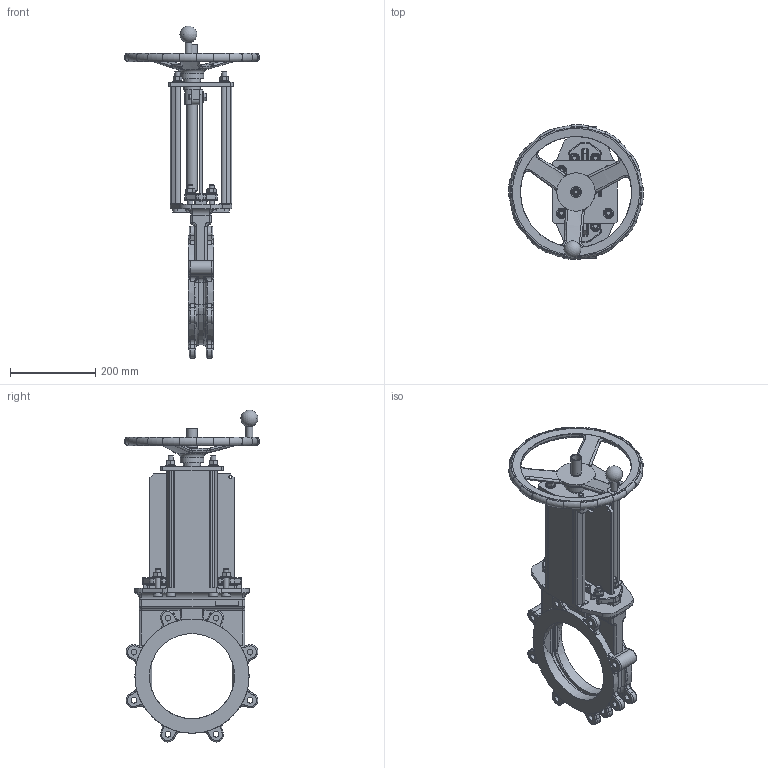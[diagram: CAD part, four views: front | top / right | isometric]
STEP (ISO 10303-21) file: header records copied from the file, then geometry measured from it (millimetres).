
FILE_DESCRIPTION(/* description */ (''),/* implementation_level */ '2;1');
FILE_NAME(/* name */ 'G:\KONSTRUK\3-D Block för kund\WB SERIE\WB14-E\HAND WHEEL\200\WB14E-DN200-PN10-HW.stp',/* time_stamp */ '2022-07-27T11:53:44+02:00',/* author */ ('davkar'),/* organization */ (''),/* preprocessor_version */ 'ST-DEVELOPER v18.1',/* originating_system */ 'Autodesk Inventor 2020',/* authorisation */ '');
FILE_SCHEMA (('AUTOMOTIVE_DESIGN { 1 0 10303 214 3 1 1 }'));
Length unit declared in the file: millimetre
Products named in the file (1): WB14E-DN200-PN10-HW_Shrinkwrap_1
Bounding box: 316.79 x 316.79 x 779.5 mm (x, y, z)
Volume: 4939577.2 mm3; surface area: 997961.7 mm2
Topology: 1 solids, 1 shells, 1495 faces, 3852 edges, 2406 vertices
Faces by surface type: plane 566, cylinder 450, torus 205, bspline 187, cone 58, sphere 29
Full cylindrical faces by diameter (mm): 7 x1, 8.376 x1, 10.106 x4, 12 x23, 13 x8, 13.835 x16, 15 x1, 15.5 x1, 16 x1, 16.63 x2, 20 x2, 21 x1, 24 x12, 25 x1, 40 x2, 55 x1, 200 x2, 268 x2, 298 x1
Entity records: 50114 total; most frequent: CARTESIAN_POINT 14160, ORIENTED_EDGE 7684, DIRECTION 7522, EDGE_CURVE 3842, AXIS2_PLACEMENT_3D 2953, VERTEX_POINT 2406, LINE 1616, VECTOR 1616
